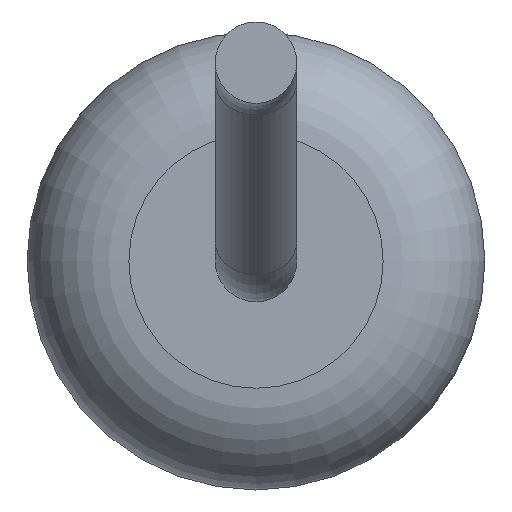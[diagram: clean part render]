
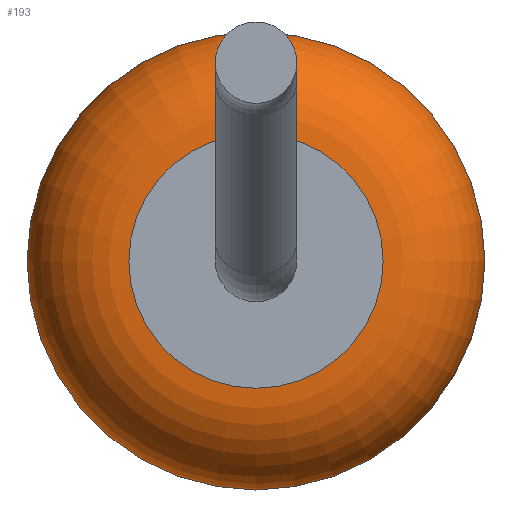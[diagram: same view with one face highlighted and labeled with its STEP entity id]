
A CAD part, left-side view. The second image highlights one B-rep face of the part: STEP entity #193.
In plain terms, the highlighted toroidal (fillet/blend) face has major radius 1.25 mm and minor radius 1 mm.
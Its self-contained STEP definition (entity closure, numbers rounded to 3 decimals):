
#193=ADVANCED_FACE('',(#398,#400),#402,.T.);
#398=FACE_OUTER_BOUND('',#399,.T.);
#399=EDGE_LOOP('',(#497));
#400=FACE_OUTER_BOUND('',#401,.T.);
#401=EDGE_LOOP('',(#498));
#402=TOROIDAL_SURFACE('',#403,1.25,1.);
#403=AXIS2_PLACEMENT_3D('',#404,#405,#406);
#404=CARTESIAN_POINT('',(-4.5,0.,0.));
#405=DIRECTION('',(-1.,0.,0.));
#406=DIRECTION('',(0.,0.,1.));
#497=ORIENTED_EDGE('',*,*,#526,.T.);
#498=ORIENTED_EDGE('',*,*,#527,.F.);
#526=EDGE_CURVE('',#562,#562,#563,.T.);
#527=EDGE_CURVE('',#564,#564,#565,.T.);
#562=VERTEX_POINT('',#648);
#563=CIRCLE('',#649,2.25);
#564=VERTEX_POINT('',#653);
#565=CIRCLE('',#654,1.25);
#648=CARTESIAN_POINT('',(-4.5,0.,2.25));
#649=AXIS2_PLACEMENT_3D('',#650,#651,#652);
#650=CARTESIAN_POINT('',(-4.5,0.,0.));
#651=DIRECTION('',(-1.,0.,0.));
#652=DIRECTION('',(0.,0.,1.));
#653=CARTESIAN_POINT('',(-5.5,0.,1.25));
#654=AXIS2_PLACEMENT_3D('',#655,#656,#657);
#655=CARTESIAN_POINT('',(-5.5,0.,0.));
#656=DIRECTION('',(-1.,0.,0.));
#657=DIRECTION('',(0.,0.,1.));
